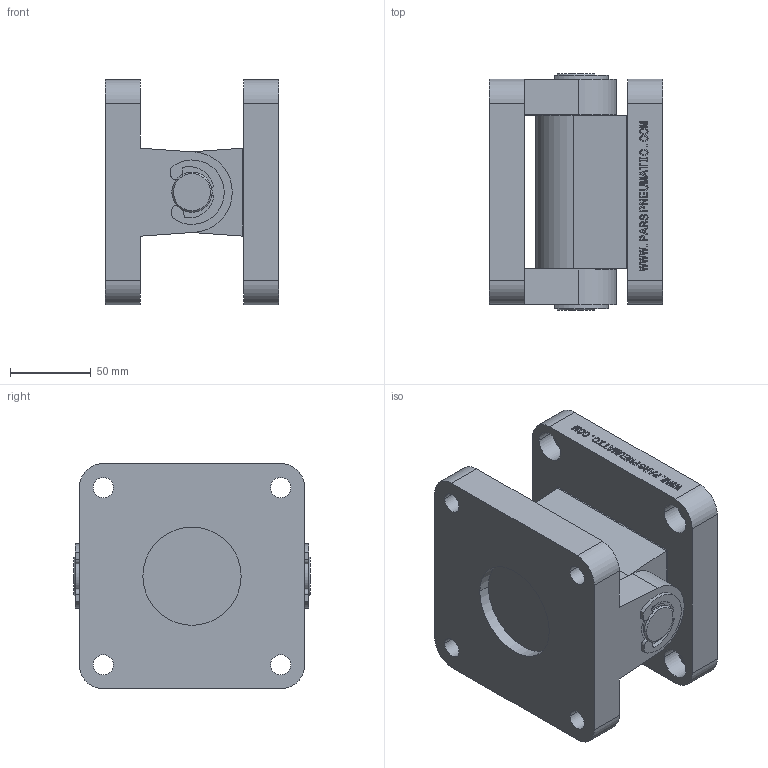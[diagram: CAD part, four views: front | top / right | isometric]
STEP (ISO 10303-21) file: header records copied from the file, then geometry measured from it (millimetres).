
FILE_DESCRIPTION(('CATIA V5 STEP Exchange'),'2;1');
FILE_NAME('D:\stp file for catalog\BAST-CAB\CAB 125.stp','2018-06-13T06:15:00+00:00',('none'),('none'),'CATIA Version 5-6 Release 2016','CATIA V5 STEP AP203','none');
FILE_SCHEMA(('CONFIG_CONTROL_DESIGN'));
Length unit declared in the file: millimetre
Products named in the file (1): PNC-CAB 125
Assembly tree (6 placements, depth 2):
  PNC-CAB 125
    #57
    #14266
    #15547
    #15570
    #15963
    #16717
Bounding box: 108 x 147 x 140.2 mm (x, y, z)
Volume: 1162906.9 mm3; surface area: 162943.5 mm2
Topology: 5 solids, 5 shells, 579 faces, 1581 edges, 1054 vertices
Faces by surface type: plane 484, cylinder 91, cone 4
Entity records: 17448 total; most frequent: ORIENTED_EDGE 3162, CARTESIAN_POINT 3119, DIRECTION 2477, EDGE_CURVE 1581, VECTOR 1391, LINE 1391, VERTEX_POINT 1054, EDGE_LOOP 643
